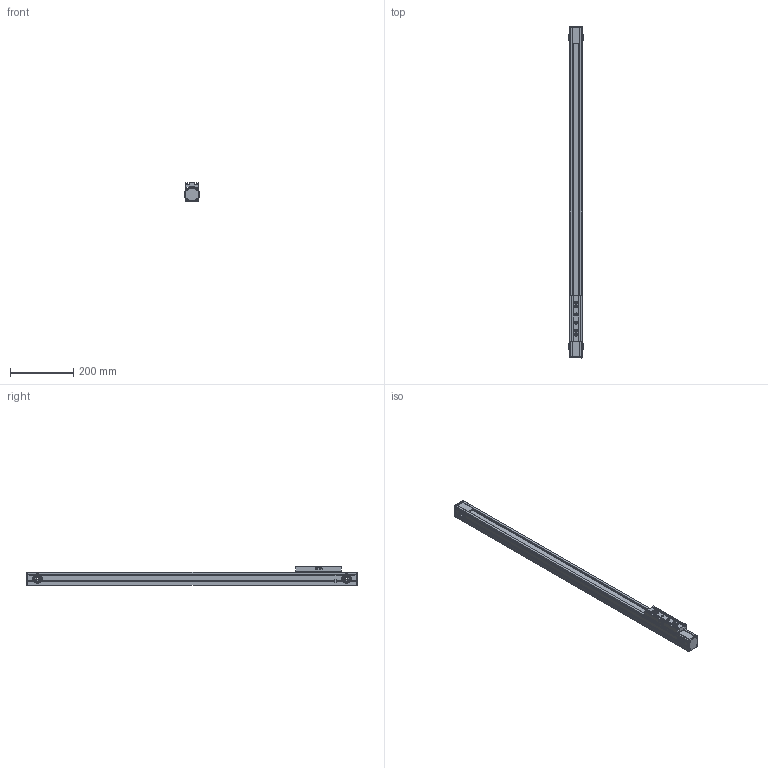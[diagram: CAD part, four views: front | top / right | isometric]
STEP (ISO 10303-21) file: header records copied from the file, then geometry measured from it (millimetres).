
FILE_DESCRIPTION (( 'STEP AP214' ), '1' );
FILE_NAME ('TKR40-800A1-F0-R3-高速内滚轮直线模组.step', '2025-10-10T03:22:30', ( '' ), ( '' ), 'SwSTEP 2.0', 'SolidWorks 2024', '' );
FILE_SCHEMA (( 'AUTOMOTIVE_DESIGN' ));
Length unit declared in the file: millimetre
Products named in the file (3): TKR40-800A1-F0-R3-高速内滚轮直线模组; TKR40-R3-02; TKR40-800-R3-01
Assembly tree (2 placements, depth 2):
  TKR40-800A1-F0-R3-高速内滚轮直线模组
    TKR40-800-R3-01
    TKR40-R3-02
Bounding box: 45 x 1052 x 60 mm (x, y, z)
Volume: 825720.9 mm3; surface area: 548875.1 mm2
Topology: 16 solids, 56 shells, 2702 faces, 7175 edges, 4621 vertices
Faces by surface type: cylinder 1388, plane 792, torus 216, cone 186, bspline 96, sphere 24
Entity records: 146594 total; most frequent: CARTESIAN_POINT 52029, ORIENTED_EDGE 14178, DIRECTION 13212, EDGE_CURVE 7139, AXIS2_PLACEMENT_3D 5104, VERTEX_POINT 4625, VECTOR 3004, LINE 3004
